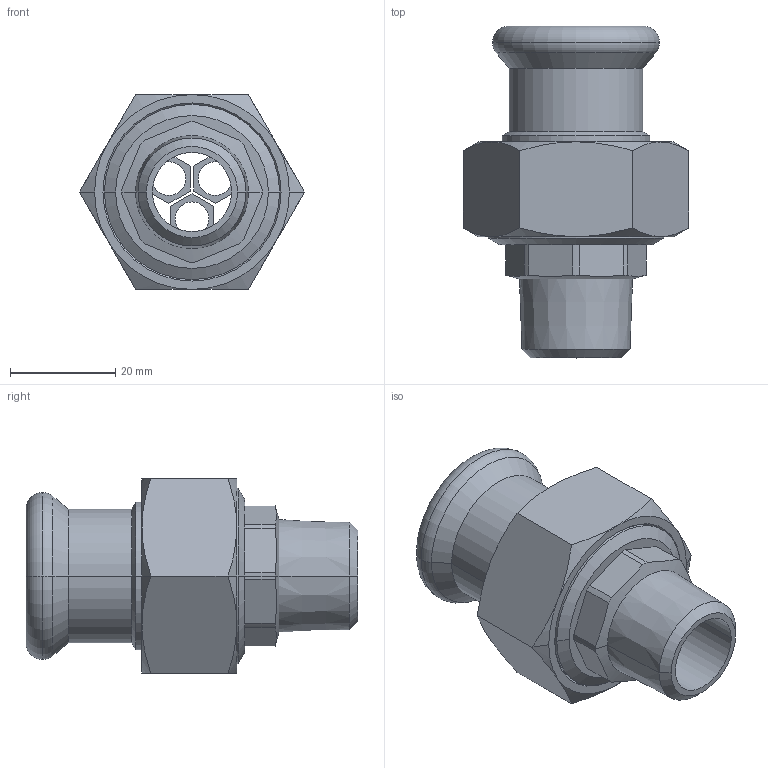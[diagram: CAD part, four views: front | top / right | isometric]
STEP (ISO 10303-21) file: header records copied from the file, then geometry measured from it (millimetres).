
FILE_DESCRIPTION(('OneSpaceDesigner STEP Export'),'2;1');
FILE_NAME('R2735 22xRp1-2.stp','2010-06-10T13:47:45',(''),(''),'OneSpace Designer STEP processor for AP214 (Solid Model)','OneSpace Modeling 15.00A 14-Mar-2007 (C) CoCreate Software GmbH','');
FILE_SCHEMA(('AUTOMOTIVE_DESIGN { 1 0 10303 214 1 1 1 1 }'));
Length unit declared in the file: millimetre
Products named in the file (2): R2735_22xRp1-2
Assembly tree (1 placements, depth 2):
  R2735_22xRp1-2
    R2735_22xRp1-2
Bounding box: 42.72 x 63 x 37 mm (x, y, z)
Volume: 23326.7 mm3; surface area: 14014.4 mm2
Topology: 1 solids, 1 shells, 149 faces, 369 edges, 228 vertices
Faces by surface type: plane 49, cone 49, cylinder 43, torus 8
Entity records: 5189 total; most frequent: CARTESIAN_POINT 2045, ORIENTED_EDGE 738, DIRECTION 513, EDGE_CURVE 369, VERTEX_POINT 228, VECTOR 177, LINE 177, AXIS2_PLACEMENT_3D 168
